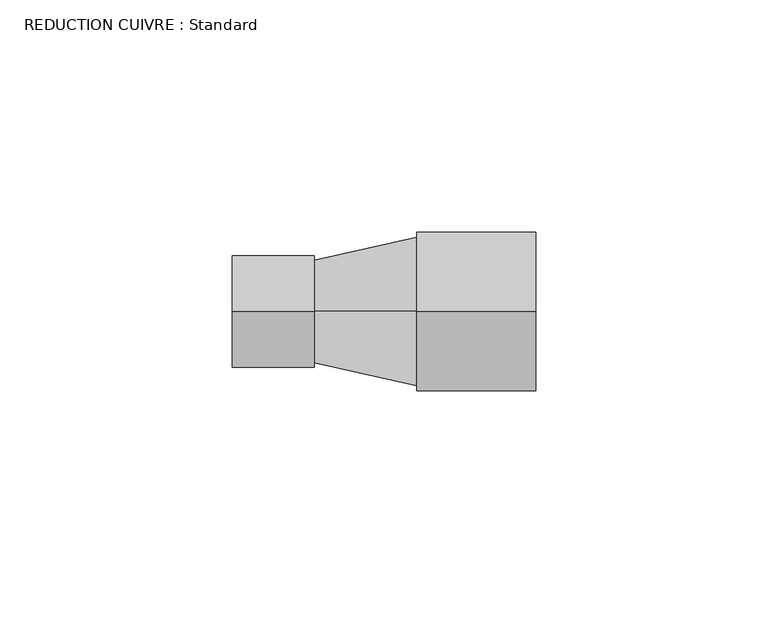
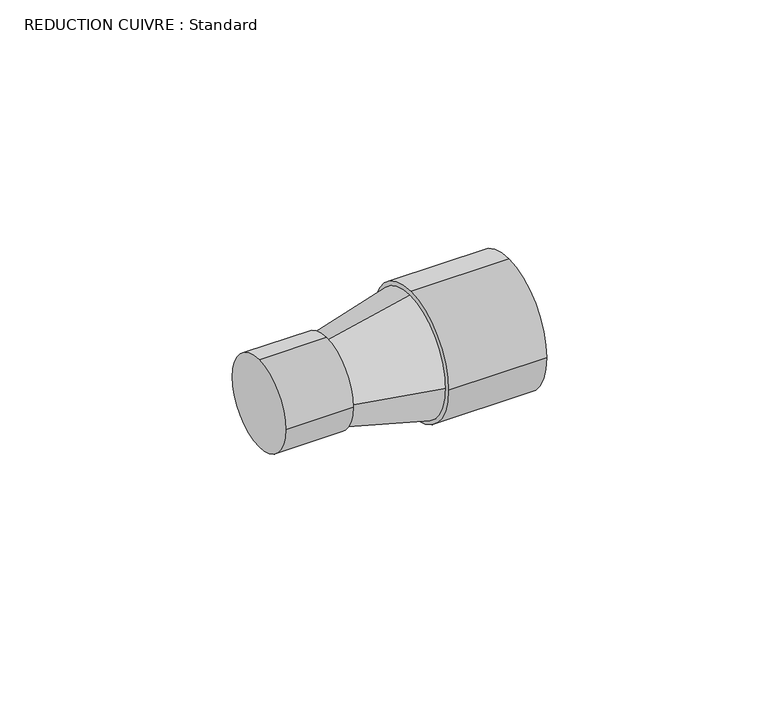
"""IFC4 building model written with IfcOpenShell, lengths in millimetres: pipe fitting geometry, REDUCTION CUIVRE : Standard."""

from ifc_helpers import new_model, si_unit, point, frame, origin, origin_2d, place, context, project, spatial, polyline, circle_curve, trimmed, segment, composite_curve, outline, extrude, source, transform, mapped, element, save
from ifc_brep_helpers import plane_surface, revolved_surface, advanced_brep


def reduction_cuivre_standard_1e4311dc(model_context):
    return source(origin(), model_context, "Body", "SolidModel", [
        extrude(outline(composite_curve([segment(trimmed(circle_curve(origin_2d(), 17.0), [point((0.0, 17.0))], [point((17.0, 0.0))], False, "CARTESIAN"), True, "CONTINUOUS"), segment(trimmed(circle_curve(origin_2d(), 17.0), [point((17.0, 0.0))], [point((0.0, -17.0))], False, "CARTESIAN"), True, "CONTINUOUS"), segment(trimmed(circle_curve(origin_2d(), 17.0), [point((0.0, -17.0))], [point((-17.0, 0.0))], False, "CARTESIAN"), True, "CONTINUOUS"), segment(trimmed(circle_curve(origin_2d(), 17.0), [point((-17.0, 0.0))], [point((0.0, 17.0))], False, "CARTESIAN"), True, "CONTINUOUS")], self_intersect=False)), frame((11.0, 0.0, 0.0), z_axis=(1.0, 0.0, 0.0), x_axis=(0.0, 1.0, 0.0)), (0.0, 0.0, 1.0), 25.6),
        advanced_brep(
        [(11.0, 0.0, 16.0), (11.0, -16.0, 0.0), (11.0, 0.0, -16.0), (11.0, 16.0, 0.0), (-11.0, 0.0, 11.0), (-11.0, 11.0, 0.0), (-11.0, 0.0, -11.0), (-11.0, -11.0, 0.0)],
        [
            (0, 1, circle_curve(frame((11.0, 0.0, 0.0), z_axis=(1.0, 0.0, 0.0), x_axis=(0.0, 0.0, 1.0)), 16.0)),
            (1, 2, circle_curve(frame((11.0, 0.0, 0.0), z_axis=(1.0, 0.0, 0.0), x_axis=(0.0, -1.0, 0.0)), 16.0)),
            (2, 3, circle_curve(frame((11.0, 0.0, 0.0), z_axis=(1.0, 0.0, 0.0), x_axis=(0.0, 0.0, -1.0)), 16.0)),
            (3, 0, circle_curve(frame((11.0, 0.0, 0.0), z_axis=(1.0, 0.0, 0.0), x_axis=(0.0, 1.0, 0.0)), 16.0)),
            (4, 5, circle_curve(frame((-11.0, 0.0, 0.0), z_axis=(-1.0, 0.0, 0.0), x_axis=(0.0, 1.0, 0.0)), 11.0)),
            (5, 6, circle_curve(frame((-11.0, 0.0, 0.0), z_axis=(-1.0, 0.0, 0.0), x_axis=(0.0, 0.0, -1.0)), 11.0)),
            (6, 7, circle_curve(frame((-11.0, 0.0, 0.0), z_axis=(-1.0, 0.0, 0.0), x_axis=(0.0, -1.0, 0.0)), 11.0)),
            (7, 4, circle_curve(frame((-11.0, 0.0, 0.0), z_axis=(-1.0, 0.0, 0.0), x_axis=(0.0, 0.0, 1.0)), 11.0)),
            (7, 1),
            (0, 4),
            (6, 2),
            (5, 3),
        ],
        [
            plane_surface(frame((11.0, 0.0, 0.0), z_axis=(1.0, 0.0, 0.0), x_axis=(0.0, -1.0, 0.0))),
            plane_surface(frame((-11.0, 0.0, 0.0), z_axis=(-1.0, 0.0, 0.0), x_axis=(0.0, -1.0, 0.0))),
            revolved_surface(polyline([(-11.0, -10.999999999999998, 0.0), (11.000000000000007, -16.0, 0.0)]), (-59.4, 0.0, 0.0), (1.0, 0.0, 0.0)),
            revolved_surface(polyline([(-11.0, 0.0, -10.999999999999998), (11.000000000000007, 0.0, -16.0)]), (-59.4, 0.0, 0.0), (1.0, 0.0, 0.0)),
            revolved_surface(polyline([(-11.0, 10.999999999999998, 0.0), (11.000000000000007, 16.0, 0.0)]), (-59.4, 0.0, 0.0), (1.0, 0.0, 0.0)),
            revolved_surface(polyline([(-11.0, 0.0, 10.999999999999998), (11.000000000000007, 0.0, 16.0)]), (-59.4, 0.0, 0.0), (1.0, 0.0, 0.0)),
        ],
        [
            (0, [[1, 2, 3, 4]]),
            (1, [[5, 6, 7, 8]]),
            (2, [[-8, 9, -1, 10]]),
            (3, [[-7, 11, -2, -9]]),
            (4, [[-6, 12, -3, -11]]),
            (5, [[-5, -10, -4, -12]]),
        ],
    ),
        extrude(outline(composite_curve([segment(trimmed(circle_curve(origin_2d(), 12.0), [point((0.0, 12.0))], [point((12.0, 0.0))], False, "CARTESIAN"), True, "CONTINUOUS"), segment(trimmed(circle_curve(origin_2d(), 12.0), [point((12.0, 0.0))], [point((0.0, -12.0))], False, "CARTESIAN"), True, "CONTINUOUS"), segment(trimmed(circle_curve(origin_2d(), 12.0), [point((0.0, -12.0))], [point((-12.0, 0.0))], False, "CARTESIAN"), True, "CONTINUOUS"), segment(trimmed(circle_curve(origin_2d(), 12.0), [point((-12.0, 0.0))], [point((0.0, 12.0))], False, "CARTESIAN"), True, "CONTINUOUS")], self_intersect=False)), frame((-28.6, 0.0, 0.0), z_axis=(1.0, 0.0, 0.0), x_axis=(0.0, 1.0, 0.0)), (0.0, 0.0, 1.0), 17.6),
    ])


if __name__ == "__main__":
    model = new_model("IFC4")
    model_context = context("Model", 3, world=origin())
    ifc_project = project(units=[si_unit("LENGTHUNIT", "METRE", prefix="MILLI")], contexts=[model_context])
    site = spatial("IfcSite", under=ifc_project)
    building = spatial("IfcBuilding", under=site)
    placement = place(None, origin())
    reduction_cuivre_standard_shape = reduction_cuivre_standard_1e4311dc(model_context)
    element("IfcPipeFitting", 1, ObjectType="REDUCTION CUIVRE : Standard", at=placement, inside=building, context=model_context, shape_type="MappedRepresentation", body=[
        mapped(reduction_cuivre_standard_shape, transform((0.0, 0.0, 0.0), x_axis=(1.0, 0.0, 0.0), y_axis=(0.0, 1.0, 0.0), z_axis=(0.0, 0.0, 1.0))),
    ])
    save(model, "model.ifc")
